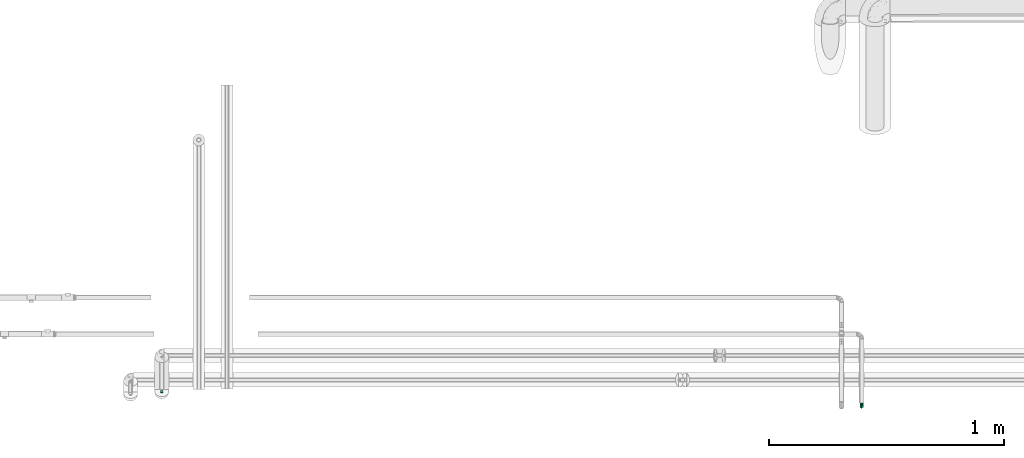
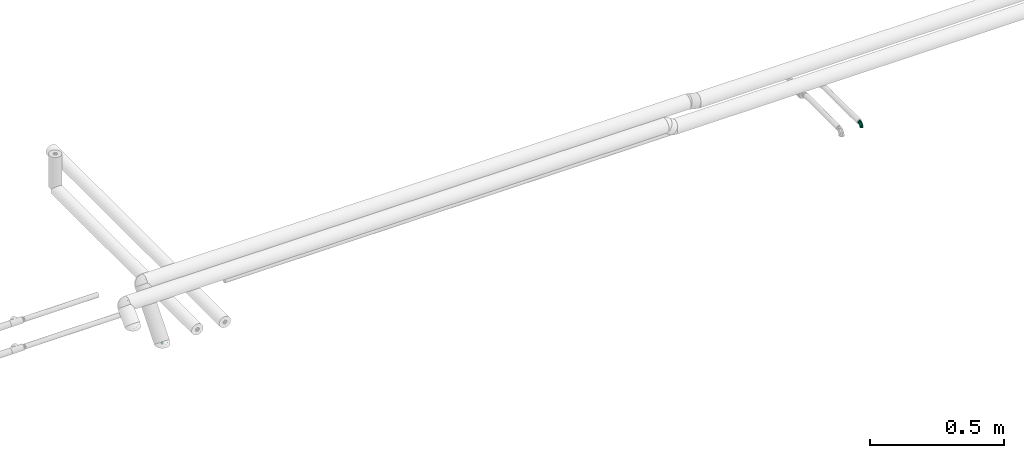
# One storey, part 147 of 156: 2 flow fittings.
"""IFC2X3 building model written with IfcOpenShell, lengths in millimetres."""

import ifcopenshell
import ifcopenshell.guid

model = None  # the IFC model being written
_history = None  # IfcOwnerHistory: only IFC2X3 demands one
_inside = {}  # id of a spatial element -> (the spatial element, [elements in it])
_under = {}  # id of a project, library or spatial element -> (it, [spatial elements below it])
_declared = {}  # id of a project -> (the project, [libraries it declares])
_typed = {}  # id of a type object -> (the type object, [elements of that type])
_made_of = {}  # id of a material, layer set ... -> (it, [elements and type objects made of it])


def new_model(schema):
    """Start an empty IFC model of exactly this schema.

    Asked for "IFC4X3", IfcOpenShell would pick the latest addendum, in which some entities
    have other attributes; the version numbers below select the first issue.
    IFC2X3 requires an IfcOwnerHistory on every rooted entity: one is made here for all.
    """
    global model, _history
    if schema == "IFC4X3":
        model = ifcopenshell.file(schema_version=(4, 3, 0, 0))
    else:
        model = ifcopenshell.file(schema=schema)
    _inside.clear()
    _under.clear()
    _declared.clear()
    _typed.clear()
    _made_of.clear()
    _history = None
    if model.schema == "IFC2X3":
        org = make("IfcOrganization", Name="unknown")
        user = make(
            "IfcPersonAndOrganization",
            ThePerson=make("IfcPerson", FamilyName="unknown"),
            TheOrganization=org,
        )
        app = make(
            "IfcApplication",
            ApplicationDeveloper=org,
            Version="unknown",
            ApplicationFullName="unknown",
            ApplicationIdentifier="unknown",
        )
        _history = make(
            "IfcOwnerHistory",
            OwningUser=user,
            OwningApplication=app,
            ChangeAction="ADDED",
            CreationDate=0,
        )
    return model


def make(cls, **values):
    """One entity of the class cls with the attributes given. An attribute that is None is left unset."""
    return model.create_entity(
        cls, **{name: value for name, value in values.items() if value is not None}
    )


def entity(cls, *values):
    """Any entity or typed value of the class cls, its attributes in the order of the schema. None: left unset."""
    e = model.create_entity(cls)
    for i, value in enumerate(values):
        if value is not None:
            e[i] = value
    return e


def rooted(cls, **values):
    """An entity with a GlobalId (a new one), such as an element, a storey or a relation."""
    return make(cls, GlobalId=ifcopenshell.guid.new(), OwnerHistory=_history, **values)


def si_unit(unit_type, name, prefix=None):
    """IfcSIUnit, for example si_unit("LENGTHUNIT", "METRE", prefix="MILLI")."""
    return make("IfcSIUnit", UnitType=unit_type, Prefix=prefix, Name=name)


def converted_unit(unit_type, name, factor, base, dimensions=None, offset=None):
    """IfcConversionBasedUnit, such as the inch: factor (a typed value) times the base unit."""
    return make(
        "IfcConversionBasedUnit"
        if offset is None
        else "IfcConversionBasedUnitWithOffset",
        ConversionOffset=offset,
        Dimensions=None
        if dimensions is None
        else entity("IfcDimensionalExponents", *dimensions),
        UnitType=unit_type,
        Name=name,
        ConversionFactor=make(
            "IfcMeasureWithUnit", ValueComponent=factor, UnitComponent=base
        ),
    )


def derived_unit(unit_type, elements):
    """IfcDerivedUnit: a product of units, each with its exponent."""
    return make(
        "IfcDerivedUnit",
        Elements=[
            make("IfcDerivedUnitElement", Unit=unit, Exponent=power)
            for unit, power in elements
        ],
        UnitType=unit_type,
    )


def assignment(units):
    """IfcUnitAssignment: the units of a project."""
    return None if units is None else make("IfcUnitAssignment", Units=units)


def point(xyz):
    """IfcCartesianPoint."""
    return None if xyz is None else make("IfcCartesianPoint", Coordinates=xyz)


def direction(xyz):
    """IfcDirection."""
    return None if xyz is None else make("IfcDirection", DirectionRatios=xyz)


def frame(location, z_axis=None, x_axis=None):
    """IfcAxis2Placement3D, a coordinate frame: its origin and axes. An axis left out is left unset."""
    return make(
        "IfcAxis2Placement3D",
        Location=point(location),
        Axis=direction(z_axis),
        RefDirection=direction(x_axis),
    )


def origin_with_axes():
    """The frame at (0, 0, 0) with the z axis (0, 0, 1) and the x axis (1, 0, 0) written out."""
    return frame((0.0, 0.0, 0.0), z_axis=(0.0, 0.0, 1.0), x_axis=(1.0, 0.0, 0.0))


def place(relative_to, where):
    """IfcLocalPlacement: puts the frame where relative to a parent placement (None: the world)."""
    return make(
        "IfcLocalPlacement", PlacementRelTo=relative_to, RelativePlacement=where
    )


def context(
    kind, dimensions, precision=None, world=None, true_north=None, identifier=None
):
    """IfcGeometricRepresentationContext, for example the 3D "Model" context."""
    return make(
        "IfcGeometricRepresentationContext",
        ContextIdentifier=identifier,
        ContextType=kind,
        CoordinateSpaceDimension=dimensions,
        Precision=precision,
        WorldCoordinateSystem=world,
        TrueNorth=true_north,
    )


def subcontext(parent, identifier, kind, view, scale=None):
    """IfcGeometricRepresentationSubContext, for example "Body" below "Model"."""
    return make(
        "IfcGeometricRepresentationSubContext",
        ContextIdentifier=identifier,
        ContextType=kind,
        ParentContext=parent,
        TargetScale=scale,
        TargetView=view,
    )


def project(units=None, contexts=None):
    """IfcProject with its units and contexts."""
    return rooted(
        "IfcProject",
        Name="project",
        RepresentationContexts=contexts,
        UnitsInContext=assignment(units),
    )


def spatial(cls, under=None, at=None, **own):
    """A site, building, storey or space (cls), placed at a placement, below another one or the project."""
    s = rooted(cls, ObjectPlacement=at, **own)
    if under is not None:
        _under.setdefault(under.id(), (under, []))[1].append(s)
    return s


def faces_of(points, faces, orient=None, outer=None):
    """IfcFace entities. A face is a list of loops; a loop is a list of indices into points, from 0.

    orient and outer hold one flag for each loop. By default every Orientation is true, the
    first loop of a face is its IfcFaceOuterBound and the others are IfcFaceBound.
    """
    made = []
    for i, loops in enumerate(faces):
        bounds = []
        for j, loop in enumerate(loops):
            is_outer = j == 0 if outer is None else outer[i][j]
            bounds.append(
                make(
                    "IfcFaceOuterBound" if is_outer else "IfcFaceBound",
                    Bound=make("IfcPolyLoop", Polygon=[points[k] for k in loop]),
                    Orientation=True if orient is None else orient[i][j],
                )
            )
        made.append(make("IfcFace", Bounds=bounds))
    return made


def open_shell(faces, orient=None, outer=None):
    """The faces of one IfcOpenShell. surface_model builds it on its shared points."""
    return ("IfcOpenShell", faces, orient, outer)


def surface_model(cls, points, shells):
    """IfcFaceBasedSurfaceModel or IfcShellBasedSurfaceModel (cls): surfaces that need not close."""
    shared = [point(p) for p in points]
    made = [make(c, CfsFaces=faces_of(shared, fs, o, b)) for c, fs, o, b in shells]
    if cls == "IfcFaceBasedSurfaceModel":
        return make(cls, FbsmFaces=made)
    return make(cls, SbsmBoundary=made)


def shape(context_of_items, identifier, shape_type, items):
    """IfcShapeRepresentation: the items that make up one representation, for example the "Body"."""
    return make(
        "IfcShapeRepresentation",
        ContextOfItems=context_of_items,
        RepresentationIdentifier=identifier,
        RepresentationType=shape_type,
        Items=items,
    )


def source(mapping_origin, context_of_items, identifier, shape_type, items):
    """IfcRepresentationMap: a shape defined once, which mapped items show again and again."""
    return make(
        "IfcRepresentationMap",
        MappingOrigin=mapping_origin,
        MappedRepresentation=shape(context_of_items, identifier, shape_type, items),
    )


def transform(
    local_origin,
    x_axis=None,
    y_axis=None,
    z_axis=None,
    scale=None,
    scale2=None,
    scale3=None,
    uniform=True,
):
    """IfcCartesianTransformationOperator3D, or its non-uniform kind. x_axis, y_axis, z_axis: its Axis1, 2, 3."""
    if uniform:
        return make(
            "IfcCartesianTransformationOperator3D",
            Axis1=direction(x_axis),
            Axis2=direction(y_axis),
            LocalOrigin=point(local_origin),
            Scale=scale,
            Axis3=direction(z_axis),
        )
    return make(
        "IfcCartesianTransformationOperator3DnonUniform",
        Axis1=direction(x_axis),
        Axis2=direction(y_axis),
        LocalOrigin=point(local_origin),
        Scale=scale,
        Axis3=direction(z_axis),
        Scale2=scale2,
        Scale3=scale3,
    )


def mapped(mapping_source, mapping_target):
    """IfcMappedItem: shows the shape of a source again, moved by a transform."""
    return make(
        "IfcMappedItem", MappingSource=mapping_source, MappingTarget=mapping_target
    )


def made_of(thing, what):
    """Note that an element or type object is made of a material, layer set ...; save() writes the relation."""
    if what is not None:
        _made_of.setdefault(what.id(), (what, []))[1].append(thing)
    return thing


def type_object(cls, material=None, **own):
    """A type object (cls), such as IfcWallType, which elements share."""
    return made_of(rooted(cls, **own), material)


def element(
    cls,
    number,
    at=None,
    inside=None,
    cuts=None,
    type_object=None,
    material=None,
    context=None,
    identifier="Body",
    shape_type=None,
    held_by="IfcProductDefinitionShape",
    body=None,
    shapes=None,
    **own,
):
    """One element of the class cls, such as IfcWall. Its Tag is "e" and its number.

    at: its placement. inside: the storey or other place that contains it. cuts: it is an
    opening in that element (IfcRelVoidsElement). A single representation is given by context,
    identifier, shape_type and body (its items); several are given by shapes. held_by: the class
    of the entity that holds the representations. save() writes the other relations.
    """
    e = rooted(cls, Tag="e%d" % number, ObjectPlacement=at, **own)
    if body is not None:
        shapes = [shape(context, identifier, shape_type, body)]
    if shapes is not None:
        e.Representation = make(held_by, Representations=shapes)
    if inside is not None:
        _inside.setdefault(inside.id(), (inside, []))[1].append(e)
    if cuts is not None:
        rooted(
            "IfcRelVoidsElement", RelatingBuildingElement=cuts, RelatedOpeningElement=e
        )
    if type_object is not None:
        _typed.setdefault(type_object.id(), (type_object, []))[1].append(e)
    return made_of(e, material)


def aggregate(whole, parts):
    """IfcRelAggregates: a whole, such as a stair, and the parts it consists of."""
    return rooted("IfcRelAggregates", RelatingObject=whole, RelatedObjects=parts)


def save(model, path):
    """Write the relations noted so far, then the file.

    IfcRelAggregates (storeys below a building ...), IfcRelContainedInSpatialStructure (elements
    in a storey), IfcRelDefinesByType, IfcRelAssociatesMaterial and IfcRelDeclares: one each for
    every whole, place, type object, material and project.
    """
    for whole, parts in _under.values():
        aggregate(whole, parts)
    for where, things in _inside.values():
        rooted(
            "IfcRelContainedInSpatialStructure",
            RelatedElements=things,
            RelatingStructure=where,
        )
    for kind, things in _typed.values():
        rooted("IfcRelDefinesByType", RelatedObjects=things, RelatingType=kind)
    for what, things in _made_of.values():
        rooted("IfcRelAssociatesMaterial", RelatedObjects=things, RelatingMaterial=what)
    for by, libraries in _declared.values():
        rooted("IfcRelDeclares", RelatingContext=by, RelatedDefinitions=libraries)
    model.write(path)


model = new_model("IFC2X3")

# Units and contexts
model_context = context("Model", 3, precision=0.01, world=frame((0.0, 4.29681676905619e-09, 0.0)), true_north=direction((4.01073788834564e-13, 1.0)))
plan_context = context("Plan", 3, precision=0.01, world=frame((0.0, 4.29681676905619e-09, 0.0)), true_north=direction((4.01073788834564e-13, 1.0)))
body_context = subcontext(model_context, "Body", "Model", "MODEL_VIEW")
ifc_project = project(units=[converted_unit("PLANEANGLEUNIT", "DEGREE", entity("IfcPositiveLengthMeasure", 0.0174532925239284), si_unit("PLANEANGLEUNIT", "RADIAN"), dimensions=[0, 0, 0, 0, 0, 0, 0]), si_unit("AREAUNIT", "SQUARE_METRE"), si_unit("LENGTHUNIT", "METRE", prefix="MILLI"), si_unit("MASSUNIT", "GRAM", prefix="KILO"), si_unit("POWERUNIT", "WATT"), si_unit("PRESSUREUNIT", "PASCAL", prefix="KILO"), si_unit("FORCEUNIT", "NEWTON", prefix="KILO"), si_unit("ELECTRICVOLTAGEUNIT", "VOLT"), si_unit("ELECTRICCURRENTUNIT", "AMPERE"), si_unit("THERMODYNAMICTEMPERATUREUNIT", "DEGREE_CELSIUS"), si_unit("TIMEUNIT", "SECOND"), si_unit("VOLUMEUNIT", "CUBIC_METRE"), derived_unit("LINEARVELOCITYUNIT", [(si_unit("LENGTHUNIT", "METRE"), 1), (si_unit("TIMEUNIT", "SECOND"), -1)]), derived_unit("VOLUMETRICFLOWRATEUNIT", [(si_unit("VOLUMEUNIT", "CUBIC_METRE"), 1), (si_unit("TIMEUNIT", "SECOND"), -1)]), derived_unit("THERMALTRANSMITTANCEUNIT", [(si_unit("POWERUNIT", "WATT"), 1), (si_unit("THERMODYNAMICTEMPERATUREUNIT", "KELVIN"), -1), (si_unit("AREAUNIT", "SQUARE_METRE"), -1)]), derived_unit("SOUNDPRESSUREUNIT", [(si_unit("PRESSUREUNIT", "PASCAL"), 1)])], contexts=[model_context, plan_context])

# Site, building, storey
site_placement = place(None, frame((0.0, -4.29681676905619e-09, 0.0), z_axis=(0.0, 0.0, 1.0), x_axis=(1.0, 0.0, 0.0)))
site = spatial("IfcSite", under=ifc_project, at=site_placement, CompositionType="ELEMENT")
building_placement = place(site_placement, frame((0.0, 4.29681676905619e-09, 0.0), z_axis=(0.0, 0.0, 1.0), x_axis=(1.0, 0.0, 0.0)))
building = spatial("IfcBuilding", under=site, at=building_placement, Name="mc-building", CompositionType="ELEMENT")
storey_placement = place(building_placement, frame((0.0, 0.0, 205200.0), z_axis=(0.0, 0.0, 1.0), x_axis=(1.0, 0.0, 0.0)))
storey = spatial("IfcBuildingStorey", under=building, at=storey_placement, Name="Nivå D + 1,2 m", CompositionType="ELEMENT", Elevation=205200.0)

# Flow fittings
pipe_fitting_type = type_object("IfcPipeFittingType", Name="magi_pipe_elbow_short_001", PredefinedType="BEND")
shared_shape_1 = source(origin_with_axes(), body_context, "Body", "SurfaceModel", [
    surface_model("IfcShellBasedSurfaceModel", [(-3.6397, 0.0, -5.0), (-3.6397, -3.53553, -3.53553), (-3.6397, 1.2941, -4.82963), (-3.6397, 2.5, -4.33013), (-3.6397, 3.53553, -3.53553), (-3.6397, 4.82963, -1.2941), (-3.6397, 4.33013, -2.5), (-3.6397, -5.0, 0.0), (-3.6397, 4.33013, 2.5), (-3.6397, -2.5, -4.33013), (-3.6397, -1.2941, -4.82963), (-3.6397, -4.82963, -1.2941), (-3.6397, -4.33013, -2.5), (-3.6397, 5.0, 0.0), (-3.6397, 4.82963, 1.2941), (-3.6397, 1.2941, 4.82963), (-3.6397, 2.5, 4.33013), (-3.6397, 3.53553, 3.53553), (-3.6397, -3.53553, 3.53553), (-3.6397, -4.82963, 1.2941), (-3.6397, -4.33013, 2.5), (-3.6397, -2.5, 4.33013), (-3.6397, -1.2941, 4.82963), (-3.6397, 0.0, 5.0), (1.95635, 3.33089, -4.82963), (5.06077, -0.36882, 3.53553), (2.78817, 2.33956, -5.0), (0.51558, 5.04793, -3.53553), (1.1812, 4.25467, -4.33013), (0.00482, 5.65663, -2.5), (-0.31625, 6.03927, -1.2941), (5.57153, -0.97751, -2.5), (3.62, 1.34822, -4.82963), (5.06077, -0.36882, -3.53553), (4.39514, 0.42444, -4.33013), (6.00211, -1.49067, 0.0), (5.8926, -1.36015, -1.2941), (0.00482, 5.65663, 2.5), (-0.31625, 6.03927, 1.2941), (1.1812, 4.25467, 4.33013), (1.95635, 3.33089, 4.82963), (0.51558, 5.04793, 3.53553), (5.57153, -0.97751, 2.5), (5.8926, -1.36015, 1.2941), (3.62, 1.34822, 4.82963), (4.39514, 0.42444, 4.33013), (2.78817, 2.33956, 5.0), (-0.42576, 6.16978, 0.0), (1.4906, -4.09539, 0.0), (-1.46233, -4.61607, 0.0), (-1.9296, 5.30154, 0.0), (4.08737, -2.59615, 0.0)], [open_shell([[[0, 1, 2]], [[3, 2, 4]], [[5, 6, 4]], [[4, 2, 7]], [[4, 7, 8]], [[9, 1, 10]], [[1, 0, 10]], [[11, 7, 12]], [[1, 12, 7]], [[1, 7, 2]], [[13, 5, 4]], [[8, 14, 13]], [[7, 15, 8]], [[8, 15, 16]], [[17, 8, 16]], [[18, 15, 7]], [[19, 20, 7]], [[7, 20, 18]], [[21, 22, 18]], [[22, 15, 18]], [[15, 22, 23]], [[8, 13, 4]], [[24, 25, 26]], [[27, 24, 28]], [[27, 29, 30]], [[31, 26, 25]], [[25, 24, 27]], [[32, 33, 34]], [[33, 32, 31]], [[31, 35, 36]], [[31, 32, 26]], [[31, 25, 35]], [[27, 30, 25]], [[37, 30, 38]], [[25, 30, 37]], [[39, 40, 37]], [[39, 37, 41]], [[25, 37, 40]], [[35, 42, 43]], [[25, 42, 35]], [[25, 44, 45]], [[25, 40, 44]], [[46, 44, 40]], [[38, 30, 47]], [[21, 18, 48]], [[20, 49, 18]], [[44, 22, 21]], [[46, 15, 23]], [[23, 22, 46]], [[19, 49, 20]], [[41, 17, 16]], [[37, 8, 17]], [[14, 8, 50]], [[50, 13, 14]], [[50, 8, 37]], [[40, 16, 15]], [[19, 7, 49]], [[48, 18, 49]], [[45, 44, 21]], [[45, 48, 25]], [[44, 46, 22]], [[51, 42, 25]], [[48, 51, 25]], [[43, 51, 35]], [[37, 38, 50]], [[47, 50, 38]], [[42, 51, 43]], [[40, 15, 46]], [[17, 41, 37]], [[39, 41, 16]], [[16, 40, 39]], [[21, 48, 45]], [[12, 49, 11]], [[26, 0, 2]], [[26, 10, 0]], [[29, 4, 6]], [[4, 27, 3]], [[5, 50, 6]], [[24, 2, 3]], [[49, 7, 11]], [[12, 1, 49]], [[48, 9, 34]], [[48, 49, 1]], [[48, 1, 9]], [[32, 9, 10]], [[5, 13, 50]], [[50, 47, 30]], [[50, 30, 29]], [[28, 3, 27]], [[3, 28, 24]], [[29, 27, 4]], [[24, 26, 2]], [[9, 32, 34]], [[36, 35, 51]], [[34, 33, 48]], [[31, 36, 51]], [[48, 33, 51]], [[51, 33, 31]], [[32, 10, 26]], [[29, 6, 50]]])]),
])
flow_fitting_1_placement = place(storey_placement, frame((323377.5, 458877.73129, 4045.32062000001), z_axis=(-1.0, 0.0, 0.0), x_axis=(0.0, 0.0, 1.0)))
element("IfcFlowFitting", 1, at=flow_fitting_1_placement, inside=storey, type_object=pipe_fitting_type, Name="magi_pipe_elbow_short_001", context=body_context, shape_type="MappedRepresentation", body=[
    mapped(shared_shape_1, transform((0.0, 0.0, 0.0), scale=1.0)),
])
shared_shape_2 = source(origin_with_axes(), body_context, "Body", "SurfaceModel", [
    surface_model("IfcShellBasedSurfaceModel", [(-15.09764, 0.0, -7.5), (-15.09764, -6.49519, -3.75), (-15.09764, 1.94114, -7.24444), (-15.09764, 3.75, -6.49519), (-15.09764, 5.3033, -5.3033), (-15.09764, 7.24444, -1.94114), (-15.09764, 6.49519, -3.75), (-15.09764, -5.3033, -5.3033), (-15.09764, -3.75, -6.49519), (-15.09764, -1.94114, -7.24444), (-15.09764, -7.24444, -1.94114), (-15.09764, -7.5, 0.0), (-15.09764, -6.49519, 3.75), (-15.09764, 7.24444, 1.94114), (-15.09764, 6.49519, 3.75), (-15.09764, 3.75, 6.49519), (-15.09764, 1.94114, 7.24444), (-15.09764, 5.3033, 5.3033), (-15.09764, -5.3033, 5.3033), (-15.09764, -7.24444, 1.94114), (-15.09764, -1.94114, 7.24444), (-15.09764, 0.0, 7.5), (-15.09764, -3.75, 6.49519), (-15.09764, 7.5, 0.0), (-2.03905, 15.08472, -7.24444), (7.40189, 15.14598, 0.0), (-0.09795, 15.09732, -7.5), (-5.40114, 15.06291, -5.3033), (-3.84787, 15.07299, -6.49519), (-6.59301, 15.05518, -3.75), (-7.34224, 15.05032, -1.94114), (3.65197, 15.12165, -6.49519), (6.3971, 15.13946, -3.75), (5.20524, 15.13173, -5.3033), (1.84315, 15.10991, -7.24444), (7.14634, 15.14432, -1.94114), (-7.59779, 15.04866, 0.0), (-7.34224, 15.05032, 1.94114), (-6.59301, 15.05518, 3.75), (-2.03905, 15.08472, 7.24444), (-3.84787, 15.07299, 6.49519), (-5.40114, 15.06291, 5.3033), (-0.09795, 15.09732, 7.5), (6.3971, 15.13946, 3.75), (7.14634, 15.14432, 1.94114), (5.20524, 15.13173, 5.3033), (3.65197, 15.12165, 6.49519), (1.84315, 15.10991, 7.24444), (-13.5067, -7.07187, 0.0), (-8.83683, -2.48604, 6.59417), (-8.73389, -5.78746, 0.0), (-3.80552, -4.4612, 0.0), (2.37593, 1.76049, 0.0), (0.72351, 1.86615, 5.03102), (0.31544, -0.3134, 0.0), (-2.30229, 0.90476, 6.32099), (-1.74504, -2.3873, 0.0), (-11.91576, -6.64373, 0.0), (-5.9043, 5.86612, 7.21705), (2.42866, 8.85278, 6.59417), (1.66056, 4.95245, 5.9702), (4.43641, 3.83439, 0.0), (-4.13193, 8.02674, 7.22706), (-4.88059, -1.72865, 5.92218), (6.98409, 13.5523, 0.0), (6.56628, 11.95862, 0.0), (-8.05337, 4.07976, 7.22706), (-8.68748, 12.38129, 0.0), (-12.4374, 8.60697, 0.0), (-9.77716, 9.71393, 0.0), (5.73068, 8.77126, 0.0), (-8.83683, -2.48604, -6.59417), (-4.13193, 8.02674, -7.22706), (0.63448, 3.41159, -5.9702), (-2.32186, 1.77015, -6.68934), (2.42866, 8.85278, -6.59417), (-11.48609, 6.07992, -5.22904), (-7.17872, 1.82436, -7.49076), (-8.26981, 6.76035, -6.14561)], [open_shell([[[0, 1, 2]], [[3, 2, 4]], [[5, 6, 4]], [[4, 2, 1]], [[5, 4, 1]], [[7, 1, 8]], [[9, 8, 1]], [[10, 11, 1]], [[0, 9, 1]], [[11, 12, 1]], [[12, 5, 1]], [[13, 5, 12]], [[14, 13, 15]], [[13, 16, 15]], [[17, 14, 15]], [[16, 13, 12]], [[12, 18, 16]], [[12, 11, 19]], [[20, 21, 22]], [[18, 22, 21]], [[16, 18, 21]], [[13, 23, 5]], [[24, 25, 26]], [[27, 24, 28]], [[29, 30, 24]], [[29, 24, 27]], [[25, 24, 30]], [[31, 32, 33]], [[31, 34, 26]], [[32, 25, 35]], [[31, 26, 32]], [[26, 25, 32]], [[30, 36, 25]], [[36, 37, 38]], [[36, 38, 39]], [[40, 39, 38]], [[40, 38, 41]], [[36, 39, 42]], [[43, 44, 25]], [[45, 43, 25]], [[46, 42, 47]], [[42, 46, 45]], [[36, 42, 45]], [[25, 36, 45]], [[19, 48, 12]], [[49, 50, 51]], [[52, 53, 54]], [[55, 56, 54]], [[22, 18, 57]], [[12, 57, 18]], [[55, 53, 58]], [[22, 50, 20]], [[21, 20, 50]], [[59, 60, 61]], [[59, 62, 60]], [[56, 55, 63]], [[21, 50, 49]], [[21, 49, 16]], [[63, 49, 51]], [[63, 51, 56]], [[43, 64, 44]], [[49, 15, 16]], [[65, 64, 43]], [[13, 66, 23]], [[14, 17, 49]], [[55, 66, 63]], [[15, 49, 17]], [[58, 62, 67]], [[68, 58, 69]], [[52, 60, 53]], [[47, 42, 70]], [[70, 46, 47]], [[41, 59, 40]], [[39, 59, 42]], [[62, 53, 60]], [[45, 46, 65]], [[62, 58, 53]], [[65, 46, 70]], [[61, 60, 52]], [[44, 64, 25]], [[59, 61, 70]], [[62, 36, 67]], [[22, 57, 50]], [[55, 58, 66]], [[49, 66, 14]], [[37, 36, 62]], [[65, 43, 45]], [[38, 37, 62]], [[14, 66, 13]], [[41, 38, 59]], [[19, 11, 48]], [[38, 62, 59]], [[48, 57, 12]], [[40, 59, 39]], [[59, 70, 42]], [[49, 63, 66]], [[58, 68, 66]], [[67, 69, 58]], [[54, 53, 55]], [[68, 23, 66]], [[71, 50, 0]], [[72, 73, 74]], [[75, 72, 29]], [[71, 2, 3]], [[71, 51, 50]], [[35, 25, 64]], [[76, 4, 6]], [[76, 5, 23]], [[6, 5, 76]], [[51, 77, 56]], [[76, 23, 68]], [[71, 4, 76]], [[48, 11, 10]], [[8, 57, 7]], [[0, 50, 9]], [[51, 71, 77]], [[57, 8, 50]], [[8, 9, 50]], [[71, 0, 2]], [[75, 73, 72]], [[54, 73, 52]], [[4, 71, 3]], [[71, 76, 77]], [[74, 54, 56]], [[30, 72, 36]], [[61, 52, 73]], [[31, 65, 70]], [[72, 78, 69]], [[27, 75, 29]], [[57, 1, 7]], [[28, 24, 75]], [[64, 65, 32]], [[57, 48, 1]], [[28, 75, 27]], [[1, 48, 10]], [[26, 75, 24]], [[34, 70, 26]], [[29, 72, 30]], [[33, 65, 31]], [[70, 34, 31]], [[72, 69, 67]], [[75, 26, 70]], [[32, 35, 64]], [[61, 73, 75]], [[61, 75, 70]], [[68, 78, 76]], [[67, 36, 72]], [[32, 65, 33]], [[77, 78, 74]], [[76, 78, 77]], [[78, 72, 74]], [[56, 77, 74]], [[73, 54, 74]], [[78, 68, 69]]])]),
])
flow_fitting_2_placement = place(storey_placement, frame((326351.10559, 458814.82144, 4040.0), z_axis=(-1.0, 0.0, 0.0), x_axis=(0.0, 0.0, 1.0)))
element("IfcFlowFitting", 2, at=flow_fitting_2_placement, inside=storey, type_object=pipe_fitting_type, Name="magi_pipe_elbow_short_001", context=body_context, shape_type="MappedRepresentation", body=[
    mapped(shared_shape_2, transform((0.0, 0.0, 0.0), scale=1.0)),
])

save(model, "model.ifc")
